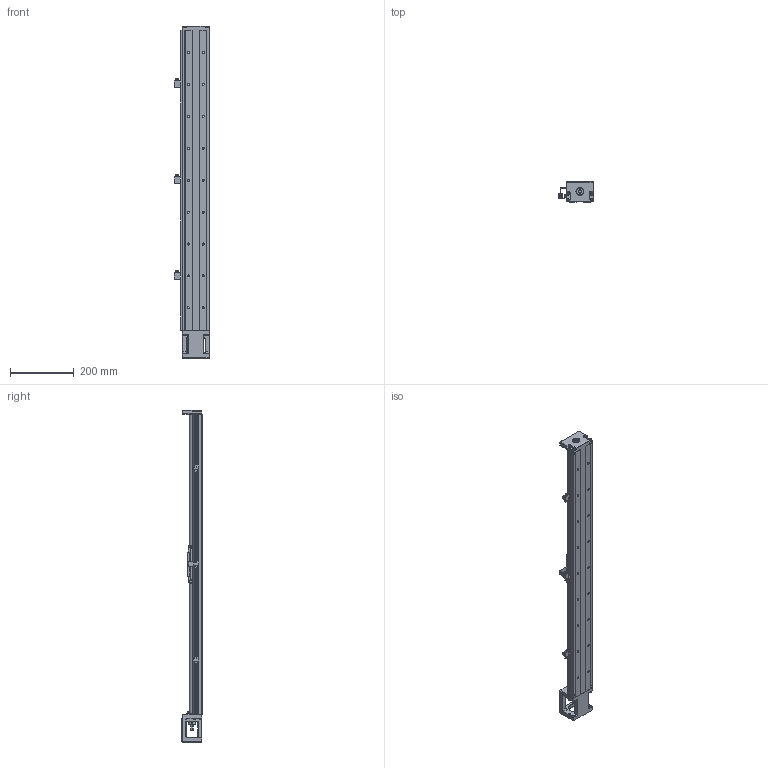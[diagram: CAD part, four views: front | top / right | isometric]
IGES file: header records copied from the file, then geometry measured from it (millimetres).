
Start section: SolidWorks IGES file using analytic representation for surfaces
Bounding box: 109.8 x 64 x 1040 mm (x, y, z)
Surface area: 438884.1 mm2 (no closed solid volume)
Topology: 0 solids, 0 shells, 1448 faces, 17522 edges, 17402 vertices
Faces by surface type: bspline 813, revolution 635
